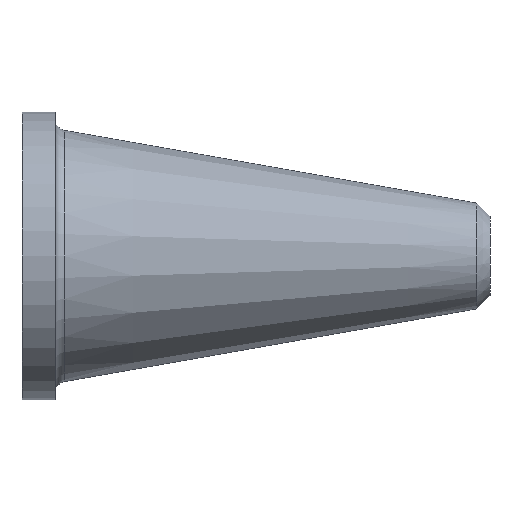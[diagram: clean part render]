
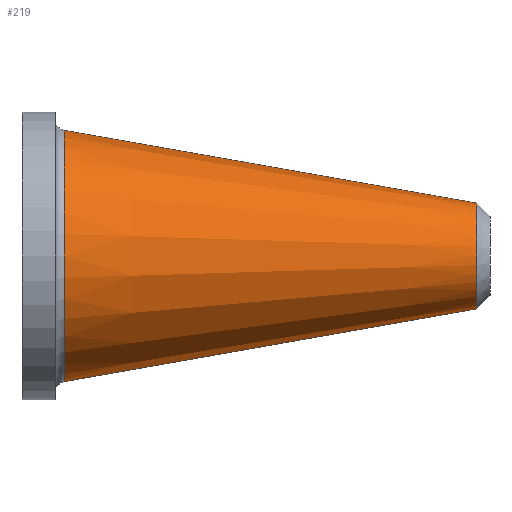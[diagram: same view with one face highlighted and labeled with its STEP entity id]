
A CAD part, front view. The second image highlights one B-rep face of the part: STEP entity #219.
In plain terms, the highlighted conical face has half-angle 10 degrees and reference radius 0.608 mm.
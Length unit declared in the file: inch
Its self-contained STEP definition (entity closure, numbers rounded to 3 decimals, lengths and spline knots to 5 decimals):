
#4 = EDGE_CURVE ( 'NONE', #2359, #2970, #1846, .T. ) ;
#15 = LINE ( 'NONE', #3725, #1607 ) ;
#23 = AXIS2_PLACEMENT_3D ( 'NONE', #3269, #3035, #659 ) ;
#219 = ADVANCED_FACE ( 'NONE', ( #1433 ), #3118, .T. ) ;
#334 = VERTEX_POINT ( 'NONE', #3285 ) ;
#444 = ORIENTED_EDGE ( 'NONE', *, *, #3101, .F. ) ;
#565 = CARTESIAN_POINT ( 'NONE',  ( 0.20543, 0., 0.02392 ) ) ;
#627 = AXIS2_PLACEMENT_3D ( 'NONE', #1165, #3225, #1451 ) ;
#659 = DIRECTION ( 'NONE',  ( 0., 0., 1. ) ) ;
#951 = ORIENTED_EDGE ( 'NONE', *, *, #4, .T. ) ;
#1044 = ORIENTED_EDGE ( 'NONE', *, *, #3103, .T. ) ;
#1136 = DIRECTION ( 'NONE',  ( -0.985, 0., -0.174 ) ) ;
#1165 = CARTESIAN_POINT ( 'NONE',  ( 0.20543, 0., 0. ) ) ;
#1403 = DIRECTION ( 'NONE',  ( -1., 0., 0. ) ) ;
#1421 = VECTOR ( 'NONE', #2866, 39.37008 ) ;
#1433 = FACE_OUTER_BOUND ( 'NONE', #3482, .T. ) ;
#1451 = DIRECTION ( 'NONE',  ( 0., 0., 1. ) ) ;
#1607 = VECTOR ( 'NONE', #1136, 39.37008 ) ;
#1710 = CARTESIAN_POINT ( 'NONE',  ( 0.01913, 0., 0.05677 ) ) ;
#1846 = CIRCLE ( 'NONE', #23, 0.02392 ) ;
#1958 = CARTESIAN_POINT ( 'NONE',  ( 0.20543, 0., 0.02392 ) ) ;
#2208 = AXIS2_PLACEMENT_3D ( 'NONE', #2921, #1403, #2314 ) ;
#2280 = ORIENTED_EDGE ( 'NONE', *, *, #3153, .F. ) ;
#2314 = DIRECTION ( 'NONE',  ( 0., 0., 1. ) ) ;
#2359 = VERTEX_POINT ( 'NONE', #3227 ) ;
#2850 = LINE ( 'NONE', #565, #1421 ) ;
#2866 = DIRECTION ( 'NONE',  ( -0.985, 0., 0.174 ) ) ;
#2921 = CARTESIAN_POINT ( 'NONE',  ( 0.01913, 0., 0. ) ) ;
#2970 = VERTEX_POINT ( 'NONE', #1958 ) ;
#3035 = DIRECTION ( 'NONE',  ( -1., 0., 0. ) ) ;
#3063 = CIRCLE ( 'NONE', #2208, 0.05677 ) ;
#3101 = EDGE_CURVE ( 'NONE', #334, #3139, #3063, .T. ) ;
#3103 = EDGE_CURVE ( 'NONE', #2970, #3139, #2850, .T. ) ;
#3118 = CONICAL_SURFACE ( 'NONE', #627, 0.02392, 0.175 ) ;
#3139 = VERTEX_POINT ( 'NONE', #1710 ) ;
#3153 = EDGE_CURVE ( 'NONE', #2359, #334, #15, .T. ) ;
#3225 = DIRECTION ( 'NONE',  ( -1., 0., 0. ) ) ;
#3227 = CARTESIAN_POINT ( 'NONE',  ( 0.20543, 0., -0.02392 ) ) ;
#3269 = CARTESIAN_POINT ( 'NONE',  ( 0.20543, 0., 0. ) ) ;
#3285 = CARTESIAN_POINT ( 'NONE',  ( 0.01913, 0., -0.05677 ) ) ;
#3482 = EDGE_LOOP ( 'NONE', ( #2280, #951, #1044, #444 ) ) ;
#3725 = CARTESIAN_POINT ( 'NONE',  ( 0.20543, 0., -0.02392 ) ) ;
